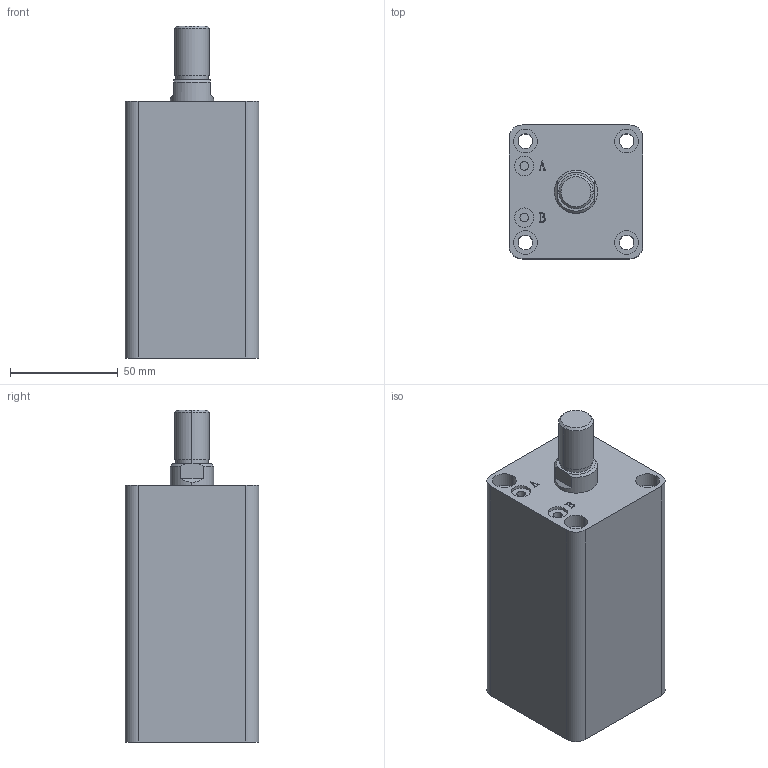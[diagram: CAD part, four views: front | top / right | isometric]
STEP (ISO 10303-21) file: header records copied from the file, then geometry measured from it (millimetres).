
FILE_DESCRIPTION (( 'STEP AP203' ), '1' );
FILE_NAME ('HTB-SDMA32-65W.STEP', '2019-10-07T11:43:04', ( '微软用户' ), ( '微软中国' ), 'SwSTEP 2.0', 'SolidWorks 2012', '' );
FILE_SCHEMA (( 'CONFIG_CONTROL_DESIGN' ));
Length unit declared in the file: millimetre
Products named in the file (3): HTB-SDMA32-65W; HTB-SDMA32-65W活塞杆; HTB-SDMA32-65掛极
Assembly tree (2 placements, depth 2):
  HTB-SDMA32-65W
    HTB-SDMA32-65掛极
    HTB-SDMA32-65W活塞杆
Bounding box: 62 x 62 x 154 mm (x, y, z)
Volume: 408999 mm3; surface area: 68774.8 mm2
Topology: 2 solids, 2 shells, 141 faces, 337 edges, 222 vertices
Faces by surface type: plane 67, cylinder 48, bspline 16, torus 6, cone 4
Entity records: 5176 total; most frequent: CARTESIAN_POINT 1593, ORIENTED_EDGE 674, DIRECTION 669, EDGE_CURVE 337, AXIS2_PLACEMENT_3D 242, VERTEX_POINT 222, LINE 185, VECTOR 185
